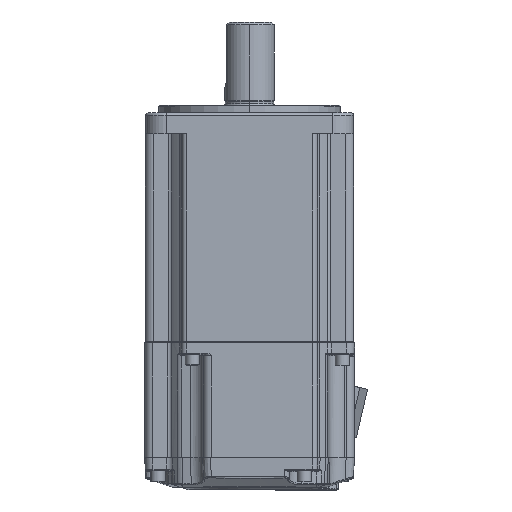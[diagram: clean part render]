
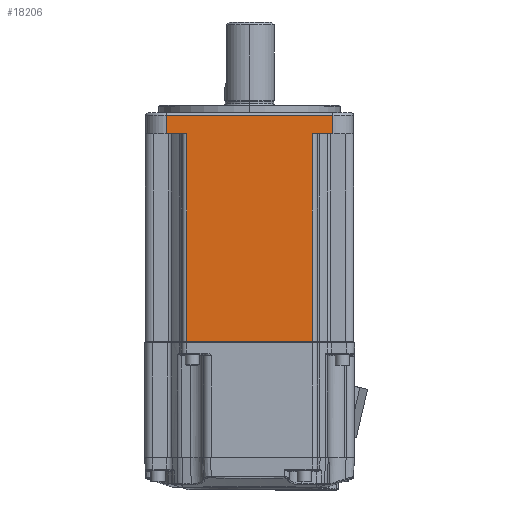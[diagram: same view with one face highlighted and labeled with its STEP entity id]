
A CAD part, top view. The second image highlights one B-rep face of the part: STEP entity #18206.
In plain terms, the highlighted planar face has unit normal (0, 0, 1).
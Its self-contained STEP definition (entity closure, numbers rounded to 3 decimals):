
#519=DIRECTION('',(-1.,0.,0.));
#520=VECTOR('',#519,64.);
#521=CARTESIAN_POINT('',(32.,-1.,40.));
#522=LINE('',#521,#520);
#625=DIRECTION('',(0.,-1.,0.));
#626=VECTOR('',#625,7.);
#627=CARTESIAN_POINT('',(-32.,-1.,40.));
#628=LINE('',#627,#626);
#633=DIRECTION('',(0.,-1.,0.));
#634=VECTOR('',#633,7.);
#635=CARTESIAN_POINT('',(32.,-1.,40.));
#636=LINE('',#635,#634);
#637=DIRECTION('',(-1.,0.,0.));
#638=VECTOR('',#637,7.965);
#639=CARTESIAN_POINT('',(32.,-8.,40.));
#640=LINE('',#639,#638);
#641=DIRECTION('',(0.,-1.,0.));
#642=VECTOR('',#641,79.8);
#643=CARTESIAN_POINT('',(24.035,-8.,40.));
#644=LINE('',#643,#642);
#645=DIRECTION('',(-1.,0.,0.));
#646=VECTOR('',#645,48.069);
#647=CARTESIAN_POINT('',(24.035,-87.8,40.));
#648=LINE('',#647,#646);
#1059=DIRECTION('',(1.,0.,0.));
#1060=VECTOR('',#1059,7.965);
#1061=CARTESIAN_POINT('',(-32.,-8.,40.));
#1062=LINE('',#1061,#1060);
#1111=DIRECTION('',(0.,-1.,0.));
#1112=VECTOR('',#1111,79.8);
#1113=CARTESIAN_POINT('',(-24.035,-8.,40.));
#1114=LINE('',#1113,#1112);
#15767=CARTESIAN_POINT('',(-24.035,-87.8,40.));
#15768=VERTEX_POINT('',#15767);
#15769=CARTESIAN_POINT('',(24.035,-87.8,40.));
#15770=VERTEX_POINT('',#15769);
#15929=CARTESIAN_POINT('',(32.,-1.,40.));
#15930=VERTEX_POINT('',#15929);
#15935=CARTESIAN_POINT('',(32.,-8.,40.));
#15936=CARTESIAN_POINT('',(24.035,-8.,40.));
#15937=VERTEX_POINT('',#15935);
#15938=VERTEX_POINT('',#15936);
#15951=CARTESIAN_POINT('',(-32.,-1.,40.));
#15952=VERTEX_POINT('',#15951);
#15953=CARTESIAN_POINT('',(-24.035,-8.,40.));
#15954=VERTEX_POINT('',#15953);
#15955=CARTESIAN_POINT('',(-32.,-8.,40.));
#15956=VERTEX_POINT('',#15955);
#18185=CARTESIAN_POINT('',(0.,-44.4,40.));
#18186=DIRECTION('',(0.,0.,1.));
#18187=DIRECTION('',(1.,0.,0.));
#18188=AXIS2_PLACEMENT_3D('',#18185,#18186,#18187);
#18189=PLANE('',#18188);
#18190=ORIENTED_EDGE('',*,*,#18029,.F.);
#18192=ORIENTED_EDGE('',*,*,#18191,.T.);
#18194=ORIENTED_EDGE('',*,*,#18193,.T.);
#18196=ORIENTED_EDGE('',*,*,#18195,.T.);
#18198=ORIENTED_EDGE('',*,*,#18197,.T.);
#18200=ORIENTED_EDGE('',*,*,#18199,.F.);
#18202=ORIENTED_EDGE('',*,*,#18201,.F.);
#18203=ORIENTED_EDGE('',*,*,#18177,.F.);
#18204=EDGE_LOOP('',(#18190,#18192,#18194,#18196,#18198,#18200,#18202,#18203));
#18205=FACE_OUTER_BOUND('',#18204,.F.);
#18206=ADVANCED_FACE('',(#18205),#18189,.T.);
#18029=EDGE_CURVE('',#15930,#15952,#522,.T.);
#18177=EDGE_CURVE('',#15952,#15956,#628,.T.);
#18191=EDGE_CURVE('',#15930,#15937,#636,.T.);
#18193=EDGE_CURVE('',#15937,#15938,#640,.T.);
#18195=EDGE_CURVE('',#15938,#15770,#644,.T.);
#18197=EDGE_CURVE('',#15770,#15768,#648,.T.);
#18199=EDGE_CURVE('',#15954,#15768,#1114,.T.);
#18201=EDGE_CURVE('',#15956,#15954,#1062,.T.);
